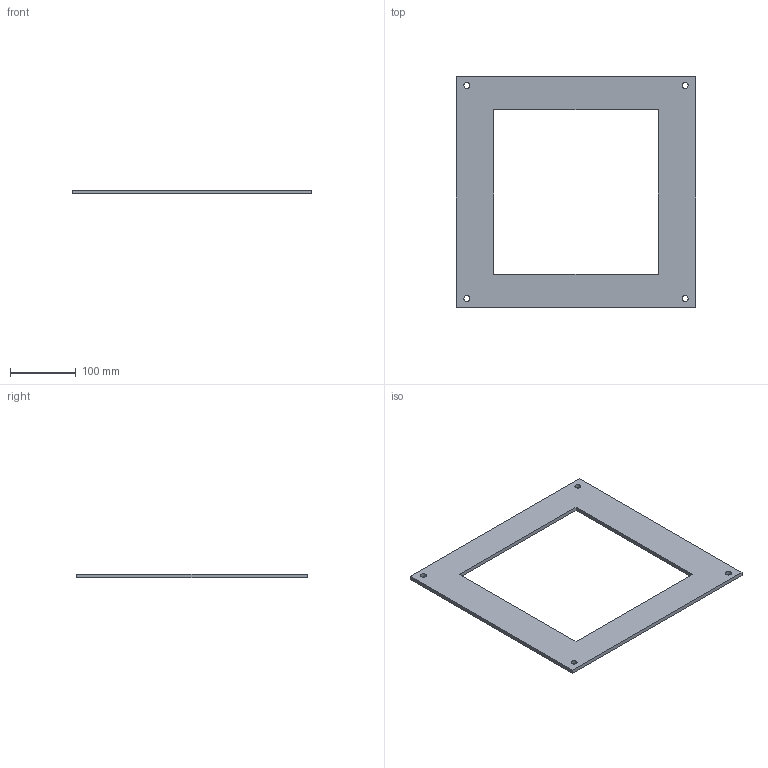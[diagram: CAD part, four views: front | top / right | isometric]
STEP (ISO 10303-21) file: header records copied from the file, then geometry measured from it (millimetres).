
FILE_DESCRIPTION(('Open CASCADE Model'),'2;1');
FILE_NAME('Open CASCADE Shape Model','2026-10-19T10:09:20',('Author'),( 'Open CASCADE'),'Open CASCADE STEP processor 8.0','Open CASCADE 8.0' ,'Unknown');
FILE_SCHEMA(('AUTOMOTIVE_DESIGN { 1 0 10303 214 1 1 1 1 }'));
Length unit declared in the file: millimetre
Products named in the file (1): MG03_FLANGE_364x350x6_P05 73
Bounding box: 364 x 350 x 6 mm (x, y, z)
Volume: 387873.2 mm3; surface area: 144537.6 mm2
Topology: 1 solids, 1 shells, 14 faces, 36 edges, 24 vertices
Faces by surface type: plane 10, cylinder 4
Full cylindrical faces by diameter (mm): 9 x4
Entity records: 950 total; most frequent: CARTESIAN_POINT 195, DIRECTION 138, LINE 92, VECTOR 92, ORIENTED_EDGE 72, PCURVE 72, DEFINITIONAL_REPRESENTATION 72, EDGE_CURVE 36
